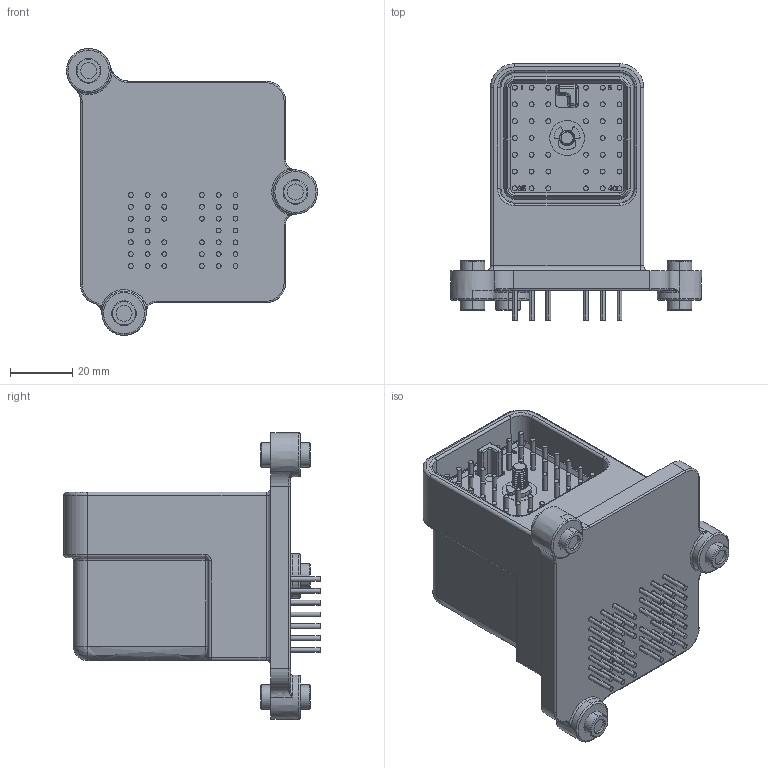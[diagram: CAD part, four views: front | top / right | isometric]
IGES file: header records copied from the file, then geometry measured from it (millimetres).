
Start section:  PTC IGES file: c-aec17-40pc-99-3d.igs
Global section: file name: c-aec17-40pc-99-3d.igs; native system: Pro/ENGINEER by Parametric Technology Corporation; preprocessor: 2011490; author: workeradm; organization: Unknown; units: millimetre
Bounding box: 80.95 x 82.55 x 92.41 mm (x, y, z)
Surface area: 31100.3 mm2 (no closed solid volume)
Topology: 0 solids, 0 shells, 777 faces, 3700 edges, 3700 vertices
Faces by surface type: bspline 391, revolution 386
